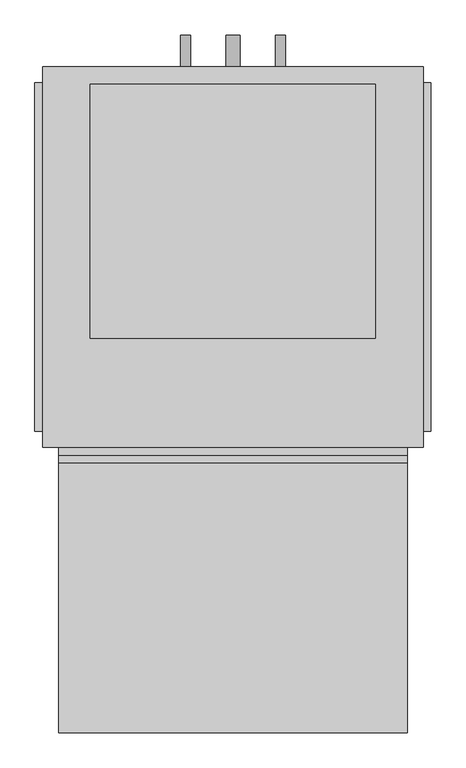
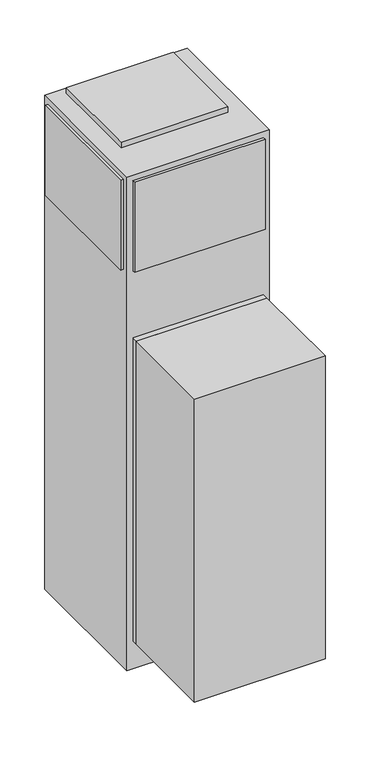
"""IFC4 building model written with IfcOpenShell, lengths in millimetres: proxy geometry, Concealed_Universal_Modular_Fan_Coil_Unit_-_42SUB_-_CARRIER_-_2-Pipe_Cool-EHeat_-_NoRisers_2022 : Size 12 - 277v/60Hz/1Ph - 4 Row 8.0kW."""

from ifc_helpers import new_model, si_unit, point, frame, frame_2d, origin, origin_with_axes, place, context, project, spatial, polyline, circle_curve, trimmed, segment, composite_curve, outline, extrude, source, transform, mapped, element, save


def mechanical_equipment_2a1655f5(model_context):
    return source(origin(), model_context, "Body", "SweptSolid", [
        extrude(outline(polyline([(736.6, -390.525), (736.6, -822.325), (177.8, -822.325), (177.8, -390.525), (736.6, -390.525)])), frame((0.0, 0.0, 127.0), z_axis=(0.0, 0.0, 1.0), x_axis=(1.0, 0.0, 0.0)), (0.0, 0.0, 1.0), 1371.6),
        extrude(outline(composite_curve([segment(trimmed(circle_curve(frame_2d((990.6, 533.4)), 7.9375), [point((990.6, 525.4625))], [point((990.6, 541.3375))], False, "CARTESIAN"), True, "CONTINUOUS"), segment(trimmed(circle_curve(frame_2d((990.6, 533.4)), 7.9375), [point((990.6, 541.3375))], [point((990.6, 525.4625))], False, "CARTESIAN"), True, "CONTINUOUS")], self_intersect=False)), frame((0.0, 244.475, 0.0), z_axis=(0.0, 1.0, 0.0), x_axis=(0.0, 0.0, 1.0)), (0.0, 0.0, 1.0), 50.8),
        extrude(outline(composite_curve([segment(trimmed(circle_curve(frame_2d((990.6, 381.0)), 7.9375), [point((990.6, 373.0625))], [point((990.6, 388.9375))], False, "CARTESIAN"), True, "CONTINUOUS"), segment(trimmed(circle_curve(frame_2d((990.6, 381.0)), 7.9375), [point((990.6, 388.9375))], [point((990.6, 373.0625))], False, "CARTESIAN"), True, "CONTINUOUS")], self_intersect=False)), frame((0.0, 244.475, 0.0), z_axis=(0.0, 1.0, 0.0), x_axis=(0.0, 0.0, 1.0)), (0.0, 0.0, 1.0), 50.8),
        extrude(outline(composite_curve([segment(trimmed(circle_curve(frame_2d((76.2, 457.2)), 11.1125), [point((76.2, 446.0875))], [point((76.2, 468.3125))], False, "CARTESIAN"), True, "CONTINUOUS"), segment(trimmed(circle_curve(frame_2d((76.2, 457.2)), 11.1125), [point((76.2, 468.3125))], [point((76.2, 446.0875))], False, "CARTESIAN"), True, "CONTINUOUS")], self_intersect=False)), frame((0.0, 244.475, 0.0), z_axis=(0.0, 1.0, 0.0), x_axis=(0.0, 0.0, 1.0)), (0.0, 0.0, 1.0), 50.8),
        extrude(outline(polyline([(685.8, 215.9), (685.8, -190.5), (228.6, -190.5), (228.6, 215.9), (685.8, 215.9)])), frame((0.0, 0.0, 2235.2), z_axis=(0.0, 0.0, 1.0), x_axis=(1.0, 0.0, 0.0)), (0.0, 0.0, 1.0), 25.4),
        extrude(outline(polyline([(139.7, -339.725), (139.7, 219.075), (152.4, 219.075), (152.4, -339.725), (139.7, -339.725)])), frame((0.0, 0.0, 1803.4), z_axis=(0.0, 0.0, 1.0), x_axis=(1.0, 0.0, 0.0)), (0.0, 0.0, 1.0), 406.4),
        extrude(outline(polyline([(774.7, 219.075), (774.7, -339.725), (762.0, -339.725), (762.0, 219.075), (774.7, 219.075)])), frame((0.0, 0.0, 1803.4), z_axis=(0.0, 0.0, 1.0), x_axis=(1.0, 0.0, 0.0)), (0.0, 0.0, 1.0), 406.4),
        extrude(outline(polyline([(736.6, -377.825), (177.8, -377.825), (177.8, -365.125), (736.6, -365.125), (736.6, -377.825)])), frame((0.0, 0.0, 1803.4), z_axis=(0.0, 0.0, 1.0), x_axis=(1.0, 0.0, 0.0)), (0.0, 0.0, 1.0), 406.4),
        extrude(outline(polyline([(736.6, -390.525), (177.8, -390.525), (177.8, -365.125), (736.6, -365.125), (736.6, -390.525)])), frame((0.0, 0.0, 127.0), z_axis=(0.0, 0.0, 1.0), x_axis=(1.0, 0.0, 0.0)), (0.0, 0.0, 1.0), 1371.6),
        extrude(outline(polyline([(762.0, 244.475), (762.0, -365.125), (152.4, -365.125), (152.4, 244.475), (762.0, 244.475)])), origin_with_axes(), (0.0, 0.0, 1.0), 2235.2),
    ])


if __name__ == "__main__":
    model = new_model("IFC4")
    model_context = context("Model", 3, world=origin())
    ifc_project = project(units=[si_unit("LENGTHUNIT", "METRE", prefix="MILLI")], contexts=[model_context])
    site = spatial("IfcSite", under=ifc_project)
    building = spatial("IfcBuilding", under=site)
    placement = place(None, origin())
    mechanical_equipment_shape = mechanical_equipment_2a1655f5(model_context)
    element("IfcBuildingElementProxy", 1, Name="Concealed_Universal_Modular_Fan_Coil_Unit_-_42SUB_-_CARRIER_-_2-Pipe_Cool-EHeat_-_NoRisers_2022 : Size 12 - 277v/60Hz/1Ph - 4 Row 8.0kW", ObjectType="Concealed_Universal_Modular_Fan_Coil_Unit_-_42SUB_-_CARRIER_-_2-Pipe_Cool-EHeat_-_NoRisers_2022 : Size 12 - 277v/60Hz/1Ph - 4 Row 8.0kW", at=placement, inside=building, context=model_context, shape_type="MappedRepresentation", body=[
        mapped(mechanical_equipment_shape, transform((0.0, 0.0, 0.0), x_axis=(1.0, 0.0, 0.0), y_axis=(0.0, 1.0, 0.0), z_axis=(0.0, 0.0, 1.0))),
    ])
    save(model, "model.ifc")
